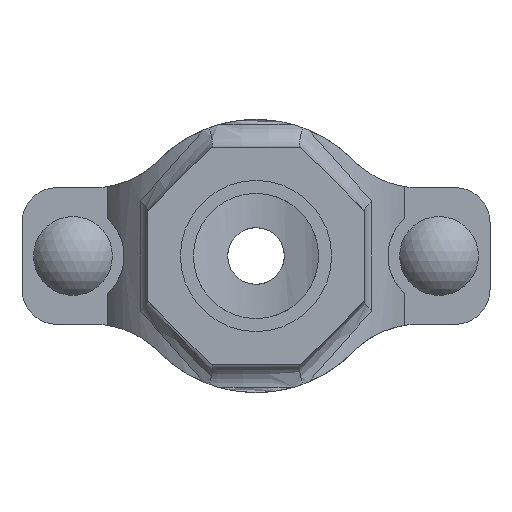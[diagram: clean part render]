
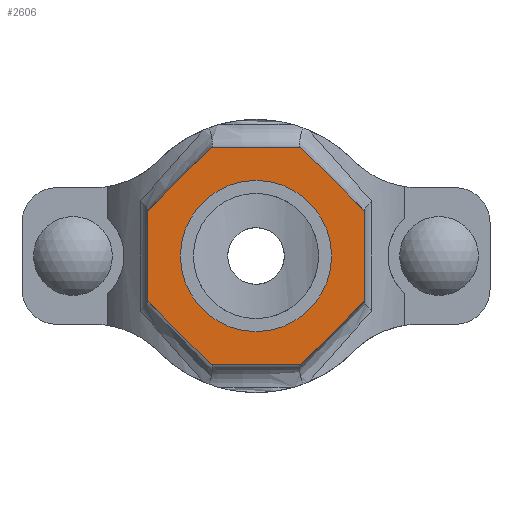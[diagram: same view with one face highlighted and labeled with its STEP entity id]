
A CAD part, front view. The second image highlights one B-rep face of the part: STEP entity #2606.
In plain terms, the highlighted planar face has unit normal (0, -1, 0) as drawn and (0, 1, 0) by its records, which use the part's own axes.
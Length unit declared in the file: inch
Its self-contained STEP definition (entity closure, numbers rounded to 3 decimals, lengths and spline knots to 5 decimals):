
#200=FACE_BOUND('',#476,.T.);
#322=FACE_OUTER_BOUND('',#475,.T.);
#475=EDGE_LOOP('',(#2183,#2184,#2185,#2186,#2187,#2188,#2189,#2190));
#476=EDGE_LOOP('',(#2191));
#615=LINE('',#4792,#801);
#618=LINE('',#4797,#804);
#620=LINE('',#4801,#806);
#622=LINE('',#4805,#808);
#656=LINE('',#5164,#842);
#658=LINE('',#5168,#844);
#660=LINE('',#5172,#846);
#662=LINE('',#5175,#848);
#801=VECTOR('',#3358,0.3937);
#804=VECTOR('',#3363,0.3937);
#806=VECTOR('',#3367,0.3937);
#808=VECTOR('',#3371,0.3937);
#842=VECTOR('',#3493,0.3937);
#844=VECTOR('',#3497,0.3937);
#846=VECTOR('',#3501,0.3937);
#848=VECTOR('',#3505,0.3937);
#934=CIRCLE('',#2870,0.83);
#1130=VERTEX_POINT('',#4789);
#1131=VERTEX_POINT('',#4791);
#1132=VERTEX_POINT('',#4795);
#1133=VERTEX_POINT('',#4799);
#1134=VERTEX_POINT('',#4803);
#1159=VERTEX_POINT('',#4997);
#1183=VERTEX_POINT('',#5163);
#1184=VERTEX_POINT('',#5167);
#1185=VERTEX_POINT('',#5171);
#1452=EDGE_CURVE('',#1131,#1130,#615,.T.);
#1455=EDGE_CURVE('',#1130,#1132,#618,.T.);
#1457=EDGE_CURVE('',#1132,#1133,#620,.T.);
#1459=EDGE_CURVE('',#1133,#1134,#622,.T.);
#1496=EDGE_CURVE('',#1159,#1159,#934,.T.);
#1528=EDGE_CURVE('',#1183,#1131,#656,.T.);
#1530=EDGE_CURVE('',#1184,#1183,#658,.T.);
#1532=EDGE_CURVE('',#1185,#1184,#660,.T.);
#1534=EDGE_CURVE('',#1134,#1185,#662,.T.);
#2183=ORIENTED_EDGE('',*,*,#1534,.T.);
#2184=ORIENTED_EDGE('',*,*,#1532,.T.);
#2185=ORIENTED_EDGE('',*,*,#1530,.T.);
#2186=ORIENTED_EDGE('',*,*,#1528,.T.);
#2187=ORIENTED_EDGE('',*,*,#1452,.T.);
#2188=ORIENTED_EDGE('',*,*,#1455,.T.);
#2189=ORIENTED_EDGE('',*,*,#1457,.T.);
#2190=ORIENTED_EDGE('',*,*,#1459,.T.);
#2191=ORIENTED_EDGE('',*,*,#1496,.T.);
#2341=PLANE('',#2893);
#2606=ADVANCED_FACE('',(#322,#200),#2341,.T.);
#2870=AXIS2_PLACEMENT_3D('',#4998,#3439,#3440);
#2893=AXIS2_PLACEMENT_3D('',#5176,#3506,#3507);
#3358=DIRECTION('',(0.,0.,1.));
#3363=DIRECTION('',(0.707,0.,0.707));
#3367=DIRECTION('',(1.,0.,0.));
#3371=DIRECTION('',(0.707,0.,-0.707));
#3439=DIRECTION('center_axis',(0.,-1.,0.));
#3440=DIRECTION('ref_axis',(-1.,0.,0.));
#3493=DIRECTION('',(-0.707,0.,0.707));
#3497=DIRECTION('',(-1.,0.,0.));
#3501=DIRECTION('',(-0.707,0.,-0.707));
#3505=DIRECTION('',(0.,0.,-1.));
#3506=DIRECTION('center_axis',(0.,1.,0.));
#3507=DIRECTION('ref_axis',(0.,0.,1.));
#4789=CARTESIAN_POINT('',(-1.19,3.,0.49291));
#4791=CARTESIAN_POINT('',(-1.19,3.,-0.49291));
#4792=CARTESIAN_POINT('',(-1.19,3.,0.49291));
#4795=CARTESIAN_POINT('',(-0.49291,3.,1.19));
#4797=CARTESIAN_POINT('',(-0.49291,3.,1.19));
#4799=CARTESIAN_POINT('',(0.49291,3.,1.19));
#4801=CARTESIAN_POINT('',(0.49291,3.,1.19));
#4803=CARTESIAN_POINT('',(1.19,3.,0.49291));
#4805=CARTESIAN_POINT('',(1.19,3.,0.49291));
#4997=CARTESIAN_POINT('',(0.83,3.,0.));
#4998=CARTESIAN_POINT('Origin',(0.,3.,0.));
#5163=CARTESIAN_POINT('',(-0.49291,3.,-1.19));
#5164=CARTESIAN_POINT('',(-1.19,3.,-0.49291));
#5167=CARTESIAN_POINT('',(0.49291,3.,-1.19));
#5168=CARTESIAN_POINT('',(-0.49291,3.,-1.19));
#5171=CARTESIAN_POINT('',(1.19,3.,-0.49291));
#5172=CARTESIAN_POINT('',(0.49291,3.,-1.19));
#5175=CARTESIAN_POINT('',(1.19,3.,-0.49291));
#5176=CARTESIAN_POINT('Origin',(0.,3.,0.));
